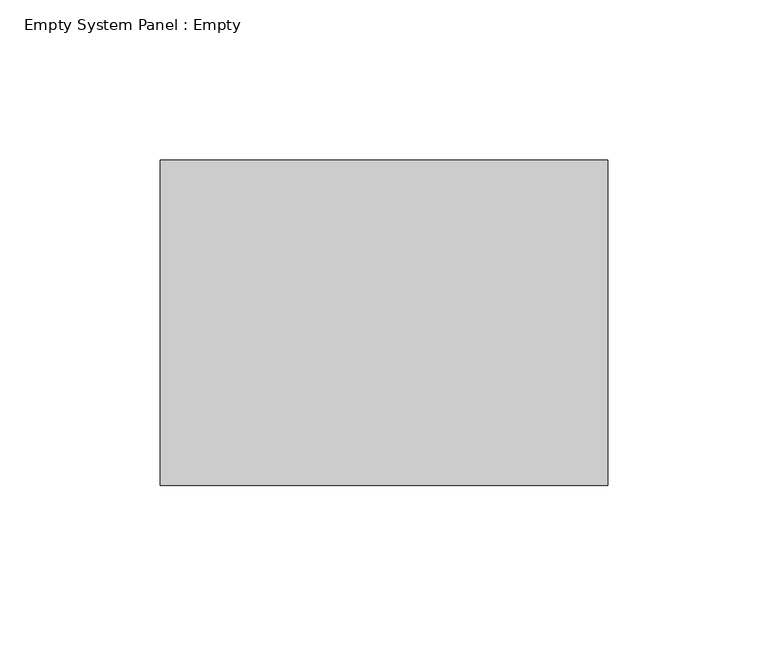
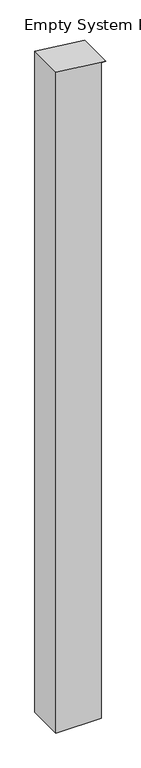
"""IFC4 building model written with IfcOpenShell, lengths in millimetres: plate geometry, Empty System Panel : Empty."""

import ifcopenshell
import ifcopenshell.guid

model = None  # the IFC model being written
_history = None  # IfcOwnerHistory: only IFC2X3 demands one
_inside = {}  # id of a spatial element -> (the spatial element, [elements in it])
_under = {}  # id of a project, library or spatial element -> (it, [spatial elements below it])
_declared = {}  # id of a project -> (the project, [libraries it declares])
_typed = {}  # id of a type object -> (the type object, [elements of that type])
_made_of = {}  # id of a material, layer set ... -> (it, [elements and type objects made of it])


def new_model(schema):
    """Start an empty IFC model of exactly this schema.

    Asked for "IFC4X3", IfcOpenShell would pick the latest addendum, in which some entities
    have other attributes; the version numbers below select the first issue.
    IFC2X3 requires an IfcOwnerHistory on every rooted entity: one is made here for all.
    """
    global model, _history
    if schema == "IFC4X3":
        model = ifcopenshell.file(schema_version=(4, 3, 0, 0))
    else:
        model = ifcopenshell.file(schema=schema)
    _inside.clear()
    _under.clear()
    _declared.clear()
    _typed.clear()
    _made_of.clear()
    _history = None
    if model.schema == "IFC2X3":
        org = make("IfcOrganization", Name="unknown")
        user = make(
            "IfcPersonAndOrganization",
            ThePerson=make("IfcPerson", FamilyName="unknown"),
            TheOrganization=org,
        )
        app = make(
            "IfcApplication",
            ApplicationDeveloper=org,
            Version="unknown",
            ApplicationFullName="unknown",
            ApplicationIdentifier="unknown",
        )
        _history = make(
            "IfcOwnerHistory",
            OwningUser=user,
            OwningApplication=app,
            ChangeAction="ADDED",
            CreationDate=0,
        )
    return model


def make(cls, **values):
    """One entity of the class cls with the attributes given. An attribute that is None is left unset."""
    return model.create_entity(
        cls, **{name: value for name, value in values.items() if value is not None}
    )


def rooted(cls, **values):
    """An entity with a GlobalId (a new one), such as an element, a storey or a relation."""
    return make(cls, GlobalId=ifcopenshell.guid.new(), OwnerHistory=_history, **values)


def si_unit(unit_type, name, prefix=None):
    """IfcSIUnit, for example si_unit("LENGTHUNIT", "METRE", prefix="MILLI")."""
    return make("IfcSIUnit", UnitType=unit_type, Prefix=prefix, Name=name)


def assignment(units):
    """IfcUnitAssignment: the units of a project."""
    return None if units is None else make("IfcUnitAssignment", Units=units)


def point(xyz):
    """IfcCartesianPoint."""
    return None if xyz is None else make("IfcCartesianPoint", Coordinates=xyz)


def direction(xyz):
    """IfcDirection."""
    return None if xyz is None else make("IfcDirection", DirectionRatios=xyz)


def frame(location, z_axis=None, x_axis=None):
    """IfcAxis2Placement3D, a coordinate frame: its origin and axes. An axis left out is left unset."""
    return make(
        "IfcAxis2Placement3D",
        Location=point(location),
        Axis=direction(z_axis),
        RefDirection=direction(x_axis),
    )


def origin():
    """The frame at (0, 0, 0) with its axes left unset."""
    return frame((0.0, 0.0, 0.0))


def place(relative_to, where):
    """IfcLocalPlacement: puts the frame where relative to a parent placement (None: the world)."""
    return make(
        "IfcLocalPlacement", PlacementRelTo=relative_to, RelativePlacement=where
    )


def context(
    kind, dimensions, precision=None, world=None, true_north=None, identifier=None
):
    """IfcGeometricRepresentationContext, for example the 3D "Model" context."""
    return make(
        "IfcGeometricRepresentationContext",
        ContextIdentifier=identifier,
        ContextType=kind,
        CoordinateSpaceDimension=dimensions,
        Precision=precision,
        WorldCoordinateSystem=world,
        TrueNorth=true_north,
    )


def project(units=None, contexts=None):
    """IfcProject with its units and contexts."""
    return rooted(
        "IfcProject",
        Name="project",
        RepresentationContexts=contexts,
        UnitsInContext=assignment(units),
    )


def spatial(cls, under=None, at=None, **own):
    """A site, building, storey or space (cls), placed at a placement, below another one or the project."""
    s = rooted(cls, ObjectPlacement=at, **own)
    if under is not None:
        _under.setdefault(under.id(), (under, []))[1].append(s)
    return s


def polyline(points):
    """IfcPolyline through the points."""
    return make("IfcPolyline", Points=[point(p) for p in points])


def outline(outer, holes=None, kind="AREA"):
    """IfcArbitraryClosedProfileDef: a profile drawn as a closed curve; with holes, ...WithVoids."""
    if holes is None:
        return make("IfcArbitraryClosedProfileDef", ProfileType=kind, OuterCurve=outer)
    return make(
        "IfcArbitraryProfileDefWithVoids",
        ProfileType=kind,
        OuterCurve=outer,
        InnerCurves=holes,
    )


def extrude(swept, where, along, depth):
    """IfcExtrudedAreaSolid: the profile swept, set in the frame where, extruded along a direction by depth."""
    return make(
        "IfcExtrudedAreaSolid",
        SweptArea=swept,
        Position=where,
        ExtrudedDirection=direction(along),
        Depth=depth,
    )


def shape(context_of_items, identifier, shape_type, items):
    """IfcShapeRepresentation: the items that make up one representation, for example the "Body"."""
    return make(
        "IfcShapeRepresentation",
        ContextOfItems=context_of_items,
        RepresentationIdentifier=identifier,
        RepresentationType=shape_type,
        Items=items,
    )


def source(mapping_origin, context_of_items, identifier, shape_type, items):
    """IfcRepresentationMap: a shape defined once, which mapped items show again and again."""
    return make(
        "IfcRepresentationMap",
        MappingOrigin=mapping_origin,
        MappedRepresentation=shape(context_of_items, identifier, shape_type, items),
    )


def transform(
    local_origin,
    x_axis=None,
    y_axis=None,
    z_axis=None,
    scale=None,
    scale2=None,
    scale3=None,
    uniform=True,
):
    """IfcCartesianTransformationOperator3D, or its non-uniform kind. x_axis, y_axis, z_axis: its Axis1, 2, 3."""
    if uniform:
        return make(
            "IfcCartesianTransformationOperator3D",
            Axis1=direction(x_axis),
            Axis2=direction(y_axis),
            LocalOrigin=point(local_origin),
            Scale=scale,
            Axis3=direction(z_axis),
        )
    return make(
        "IfcCartesianTransformationOperator3DnonUniform",
        Axis1=direction(x_axis),
        Axis2=direction(y_axis),
        LocalOrigin=point(local_origin),
        Scale=scale,
        Axis3=direction(z_axis),
        Scale2=scale2,
        Scale3=scale3,
    )


def mapped(mapping_source, mapping_target):
    """IfcMappedItem: shows the shape of a source again, moved by a transform."""
    return make(
        "IfcMappedItem", MappingSource=mapping_source, MappingTarget=mapping_target
    )


def made_of(thing, what):
    """Note that an element or type object is made of a material, layer set ...; save() writes the relation."""
    if what is not None:
        _made_of.setdefault(what.id(), (what, []))[1].append(thing)
    return thing


def element(
    cls,
    number,
    at=None,
    inside=None,
    cuts=None,
    type_object=None,
    material=None,
    context=None,
    identifier="Body",
    shape_type=None,
    held_by="IfcProductDefinitionShape",
    body=None,
    shapes=None,
    **own,
):
    """One element of the class cls, such as IfcWall. Its Tag is "e" and its number.

    at: its placement. inside: the storey or other place that contains it. cuts: it is an
    opening in that element (IfcRelVoidsElement). A single representation is given by context,
    identifier, shape_type and body (its items); several are given by shapes. held_by: the class
    of the entity that holds the representations. save() writes the other relations.
    """
    e = rooted(cls, Tag="e%d" % number, ObjectPlacement=at, **own)
    if body is not None:
        shapes = [shape(context, identifier, shape_type, body)]
    if shapes is not None:
        e.Representation = make(held_by, Representations=shapes)
    if inside is not None:
        _inside.setdefault(inside.id(), (inside, []))[1].append(e)
    if cuts is not None:
        rooted(
            "IfcRelVoidsElement", RelatingBuildingElement=cuts, RelatedOpeningElement=e
        )
    if type_object is not None:
        _typed.setdefault(type_object.id(), (type_object, []))[1].append(e)
    return made_of(e, material)


def aggregate(whole, parts):
    """IfcRelAggregates: a whole, such as a stair, and the parts it consists of."""
    return rooted("IfcRelAggregates", RelatingObject=whole, RelatedObjects=parts)


def save(model, path):
    """Write the relations noted so far, then the file.

    IfcRelAggregates (storeys below a building ...), IfcRelContainedInSpatialStructure (elements
    in a storey), IfcRelDefinesByType, IfcRelAssociatesMaterial and IfcRelDeclares: one each for
    every whole, place, type object, material and project.
    """
    for whole, parts in _under.values():
        aggregate(whole, parts)
    for where, things in _inside.values():
        rooted(
            "IfcRelContainedInSpatialStructure",
            RelatedElements=things,
            RelatingStructure=where,
        )
    for kind, things in _typed.values():
        rooted("IfcRelDefinesByType", RelatedObjects=things, RelatingType=kind)
    for what, things in _made_of.values():
        rooted("IfcRelAssociatesMaterial", RelatedObjects=things, RelatingMaterial=what)
    for by, libraries in _declared.values():
        rooted("IfcRelDeclares", RelatingContext=by, RelatedDefinitions=libraries)
    model.write(path)


def empty_system_panel_empty_d87b0525(model_context):
    return source(origin(), model_context, "Body", "SweptSolid", [
        extrude(outline(polyline([(0.0, -69.85), (0.0, 57.15), (1940.2105866, 57.15), (1940.2105866, 69.85), (1955.8357765, -69.85), (0.0, -69.85)])), frame((0.0, -50.8, 0.0), z_axis=(0.0, 1.0, 0.0), x_axis=(0.0, 0.0, 1.0)), (0.0, 0.0, 1.0), 101.6),
    ])


if __name__ == "__main__":
    model = new_model("IFC4")
    model_context = context("Model", 3, world=origin())
    ifc_project = project(units=[si_unit("LENGTHUNIT", "METRE", prefix="MILLI")], contexts=[model_context])
    site = spatial("IfcSite", under=ifc_project)
    building = spatial("IfcBuilding", under=site)
    placement = place(None, origin())
    empty_system_panel_empty_shape = empty_system_panel_empty_d87b0525(model_context)
    element("IfcPlate", 1, ObjectType="Empty System Panel : Empty", at=placement, inside=building, context=model_context, shape_type="MappedRepresentation", body=[
        mapped(empty_system_panel_empty_shape, transform((0.0, 0.0, 0.0), x_axis=(1.0, 0.0, 0.0), y_axis=(0.0, 1.0, 0.0), z_axis=(0.0, 0.0, 1.0))),
    ])
    save(model, "model.ifc")
